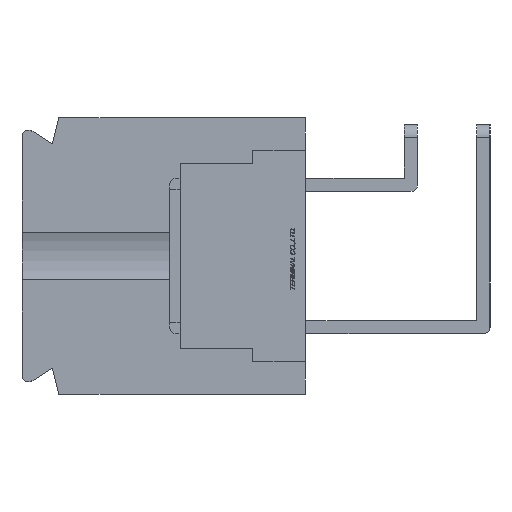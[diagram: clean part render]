
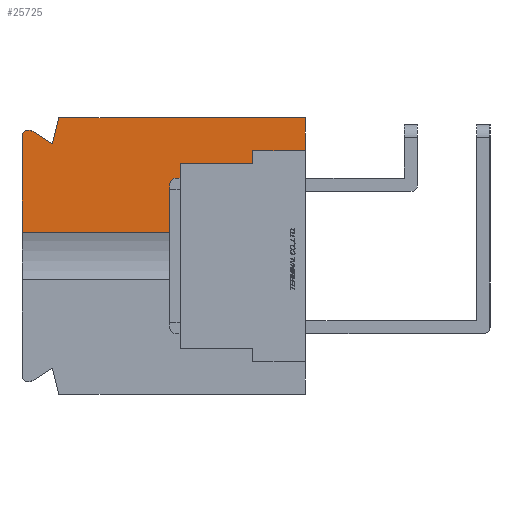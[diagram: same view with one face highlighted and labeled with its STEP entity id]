
A CAD part, left-side view. The second image highlights one B-rep face of the part: STEP entity #25725.
In plain terms, the highlighted planar face has unit normal (-1, 0, 0).
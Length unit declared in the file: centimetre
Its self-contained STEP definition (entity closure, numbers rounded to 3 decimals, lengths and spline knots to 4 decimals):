
#1169=CIRCLE('',#43135,0.05);
#1475=VERTEX_POINT('',#33414);
#1476=VERTEX_POINT('',#33416);
#3020=VERTEX_POINT('',#38307);
#3021=VERTEX_POINT('',#38309);
#3026=VERTEX_POINT('',#38320);
#3028=VERTEX_POINT('',#38326);
#3030=VERTEX_POINT('',#38332);
#3031=VERTEX_POINT('',#38339);
#3032=VERTEX_POINT('',#38341);
#3033=VERTEX_POINT('',#38343);
#3034=VERTEX_POINT('',#38345);
#4120=VECTOR('',#27666,1.);
#5878=VECTOR('',#31326,1.);
#5883=VECTOR('',#31340,1.);
#5886=VECTOR('',#31344,1.);
#5889=VECTOR('',#31348,1.);
#5890=VECTOR('',#31350,1.);
#5891=VECTOR('',#31351,1.);
#5892=VECTOR('',#31352,1.);
#5893=VECTOR('',#31353,1.);
#5894=VECTOR('',#31354,1.);
#7131=LINE('',#33415,#4120);
#8889=LINE('',#38308,#5878);
#8894=LINE('',#38325,#5883);
#8897=LINE('',#38331,#5886);
#8900=LINE('',#38336,#5889);
#8901=LINE('',#38338,#5890);
#8902=LINE('',#38340,#5891);
#8903=LINE('',#38342,#5892);
#8904=LINE('',#38344,#5893);
#8905=LINE('',#38346,#5894);
#10190=EDGE_CURVE('',#1475,#1476,#7131,.T.);
#12525=EDGE_CURVE('',#3020,#3021,#8889,.T.);
#12532=EDGE_CURVE('',#3021,#3026,#1169,.T.);
#12535=EDGE_CURVE('',#3026,#3028,#8894,.T.);
#12538=EDGE_CURVE('',#3028,#3030,#8897,.T.);
#12541=EDGE_CURVE('',#3030,#1475,#8900,.T.);
#12542=EDGE_CURVE('',#3031,#1476,#8901,.T.);
#12543=EDGE_CURVE('',#3020,#3032,#8902,.T.);
#12544=EDGE_CURVE('',#3032,#3033,#8903,.T.);
#12545=EDGE_CURVE('',#3033,#3034,#8904,.T.);
#12546=EDGE_CURVE('',#3034,#3031,#8905,.T.);
#19016=ORIENTED_EDGE('',*,*,#12542,.T.);
#19017=ORIENTED_EDGE('',*,*,#10190,.F.);
#19018=ORIENTED_EDGE('',*,*,#12541,.F.);
#19019=ORIENTED_EDGE('',*,*,#12538,.F.);
#19020=ORIENTED_EDGE('',*,*,#12535,.F.);
#19021=ORIENTED_EDGE('',*,*,#12532,.F.);
#19022=ORIENTED_EDGE('',*,*,#12525,.F.);
#19023=ORIENTED_EDGE('',*,*,#12543,.T.);
#19024=ORIENTED_EDGE('',*,*,#12544,.T.);
#19025=ORIENTED_EDGE('',*,*,#12545,.T.);
#19026=ORIENTED_EDGE('',*,*,#12546,.T.);
#22642=EDGE_LOOP('',(#19016,#19017,#19018,#19019,#19020,#19021,#19022,#19023,
#19024,#19025,#19026));
#24240=FACE_BOUND('',#22642,.T.);
#25725=ADVANCED_FACE('',(#24240),#26900,.F.);
#26900=PLANE('',#43139);
#27666=DIRECTION('',(0.,0.,-1.));
#31326=DIRECTION('',(0.,0.,1.));
#31335=DIRECTION('',(1.,0.,0.));
#31336=DIRECTION('',(0.,0.,-0.05));
#31340=DIRECTION('',(0.,-0.844,-0.536));
#31344=DIRECTION('',(0.,-0.243,0.97));
#31348=DIRECTION('',(0.,-1.,0.));
#31349=DIRECTION('',(1.,0.,0.));
#31350=DIRECTION('',(0.,-1.,0.));
#31351=DIRECTION('',(0.,-1.,0.));
#31352=DIRECTION('',(0.,0.,1.));
#31353=DIRECTION('',(0.,-1.,0.));
#31354=DIRECTION('',(0.,0.,1.));
#33414=CARTESIAN_POINT('',(-1.1,0.,1.05));
#33415=CARTESIAN_POINT('',(-1.1,0.,1.05));
#33416=CARTESIAN_POINT('',(-1.1,0.,0.8));
#38307=CARTESIAN_POINT('',(-1.1,2.15,0.1809));
#38308=CARTESIAN_POINT('',(-1.1,2.15,-0.905));
#38309=CARTESIAN_POINT('',(-1.1,2.15,0.905));
#38319=CARTESIAN_POINT('',(-1.1,2.1,0.905));
#38320=CARTESIAN_POINT('',(-1.1,2.0742,0.9478));
#38325=CARTESIAN_POINT('',(-1.1,2.0742,0.9478));
#38326=CARTESIAN_POINT('',(-1.1,1.92,0.85));
#38331=CARTESIAN_POINT('',(-1.1,1.92,0.85));
#38332=CARTESIAN_POINT('',(-1.1,1.87,1.05));
#38336=CARTESIAN_POINT('',(-1.1,1.87,1.05));
#38337=CARTESIAN_POINT('',(-1.1,1.082,0.));
#38338=CARTESIAN_POINT('',(-1.1,0.641,0.8));
#38339=CARTESIAN_POINT('',(-1.1,0.4,0.8));
#38340=CARTESIAN_POINT('',(-1.1,1.55,0.1809));
#38341=CARTESIAN_POINT('',(-1.1,0.95,0.1809));
#38342=CARTESIAN_POINT('',(-1.1,0.95,0.));
#38343=CARTESIAN_POINT('',(-1.1,0.95,0.7));
#38344=CARTESIAN_POINT('',(-1.1,0.8785,0.7));
#38345=CARTESIAN_POINT('',(-1.1,0.4,0.7));
#38346=CARTESIAN_POINT('',(-1.1,0.4,0.375));
#43135=AXIS2_PLACEMENT_3D('',#38319,#31335,#31336);
#43139=AXIS2_PLACEMENT_3D('',#38337,#31349,$);
